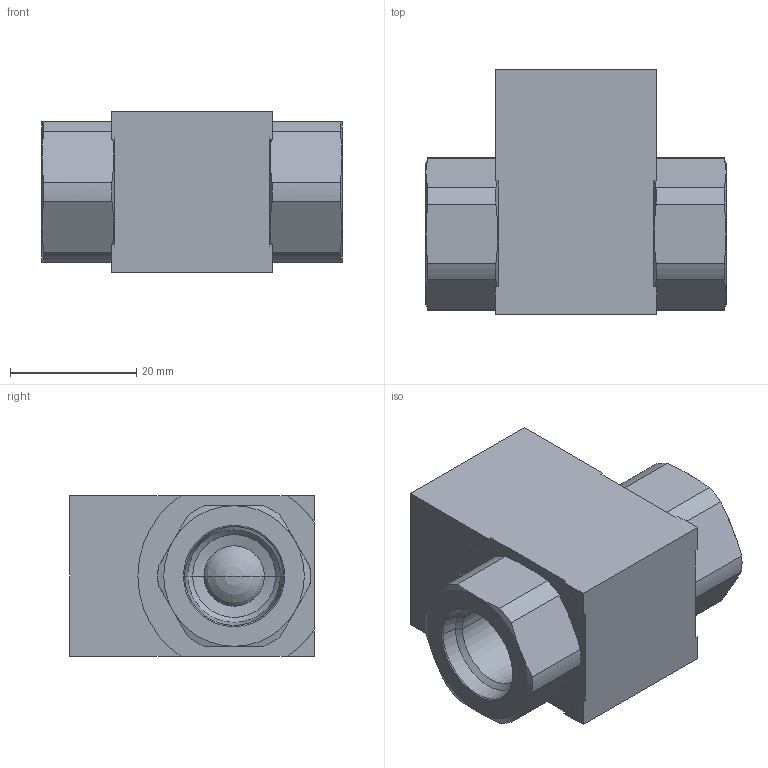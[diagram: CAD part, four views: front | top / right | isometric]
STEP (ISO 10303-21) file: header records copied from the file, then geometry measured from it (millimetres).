
FILE_DESCRIPTION((''),'2;1');
FILE_NAME('LSV1-6T-X_SW0001','2015-09-04T',('BH1'),(''),'PRO/ENGINEER BY PARAMETRIC TECHNOLOGY CORPORATION, 2014200','PRO/ENGINEER BY PARAMETRIC TECHNOLOGY CORPORATION, 2014200','');
FILE_SCHEMA(('CONFIG_CONTROL_DESIGN'));
Length unit declared in the file: inch
Products named in the file (1): LSV1-6T-X_SW0001
Bounding box: 47.45 x 38.71 x 25.4 mm (x, y, z)
Volume: 25173.5 mm3; surface area: 13149.2 mm2
Topology: 2 solids, 2 shells, 163 faces, 379 edges, 225 vertices
Faces by surface type: cone 54, cylinder 47, plane 34, torus 26, sphere 2
Entity records: 4974 total; most frequent: CARTESIAN_POINT 1161, DIRECTION 863, ORIENTED_EDGE 750, EDGE_CURVE 375, AXIS2_PLACEMENT_3D 366, VERTEX_POINT 225, CIRCLE 202, EDGE_LOOP 176
